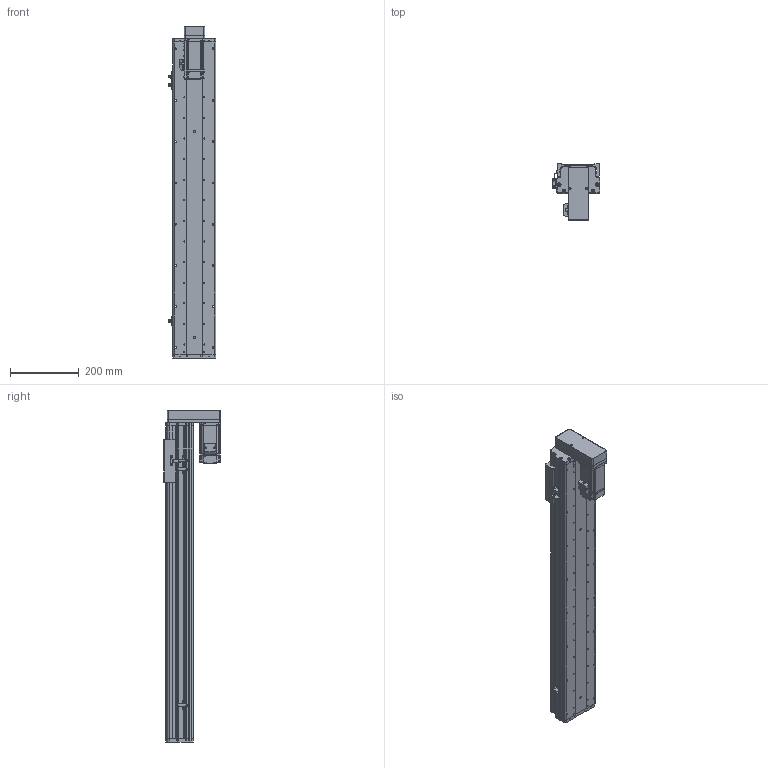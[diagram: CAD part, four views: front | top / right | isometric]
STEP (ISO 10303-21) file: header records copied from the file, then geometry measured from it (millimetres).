
FILE_DESCRIPTION (( 'STEP AP214' ), '1' );
FILE_NAME ('KSD125S-S700-MD-CM.STEP', '2017-10-21T08:09:51', ( '微软用户' ), ( '微软中国' ), 'SwSTEP 2.0', 'SolidWorks 2014', '' );
FILE_SCHEMA (( 'AUTOMOTIVE_DESIGN' ));
Length unit declared in the file: millimetre
Products named in the file (16): HTPA30S3M150_A_H6_a佪裝蚚; HTPA30S3M150_A_H6_a萇儂蚚; KSD125S-700俴最佪裝滅鳥裔; KSD125S-700俴最佪裝菁啣; MHMD042G1CA_2_03; 拸萇儂釱滅袉菜; 拸萇儂釱滅袉菜-1; 覜茼え68遵圉猾敕; U倰嫖萇假蚾璃; U倰嫖萇EEㄜSX672; ヶ傷啣-125遵耀郪; KSD125-賑雄釱1; 125-帣傷啣1; KSD125S-S700-MD-CM; 125宽马达安装板连板上下折丝杆同步带; 125遵悵誘欶奻狟殏
Assembly tree (19 placements, depth 2):
  KSD125S-S700-MD-CM
    125-帣傷啣1
    KSD125-賑雄釱1
    ヶ傷啣-125遵耀郪
    U倰嫖萇EEㄜSX672  x3
    U倰嫖萇假蚾璃  x3
    覜茼え68遵圉猾敕
    拸萇儂釱滅袉菜-1
    拸萇儂釱滅袉菜
    MHMD042G1CA_2_03
    KSD125S-700俴最佪裝菁啣
    KSD125S-700俴最佪裝滅鳥裔
    HTPA30S3M150_A_H6_a萇儂蚚
    HTPA30S3M150_A_H6_a佪裝蚚
    125遵悵誘欶奻狟殏
    125宽马达安装板连板上下折丝杆同步带
Bounding box: 138.7 x 165 x 967.5 mm (x, y, z)
Volume: 3148660.4 mm3; surface area: 1073271.8 mm2
Topology: 18 solids, 21 shells, 2219 faces, 6435 edges, 4245 vertices
Faces by surface type: cylinder 1394, plane 684, cone 119, bspline 22
Entity records: 79607 total; most frequent: CARTESIAN_POINT 15913, DIRECTION 12229, ORIENTED_EDGE 11378, EDGE_CURVE 5767, AXIS2_PLACEMENT_3D 4731, VERTEX_POINT 3837, LINE 2767, VECTOR 2767
